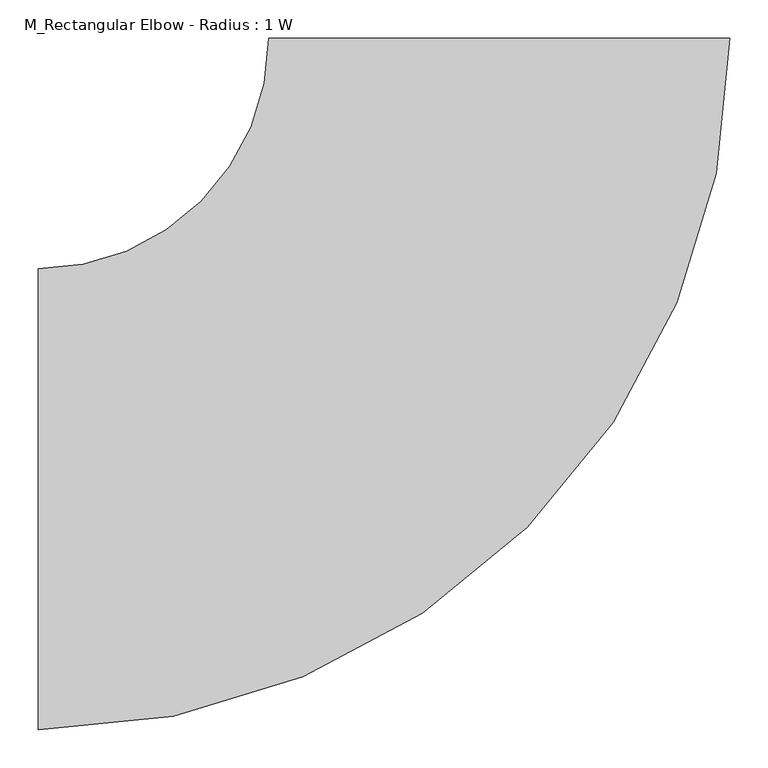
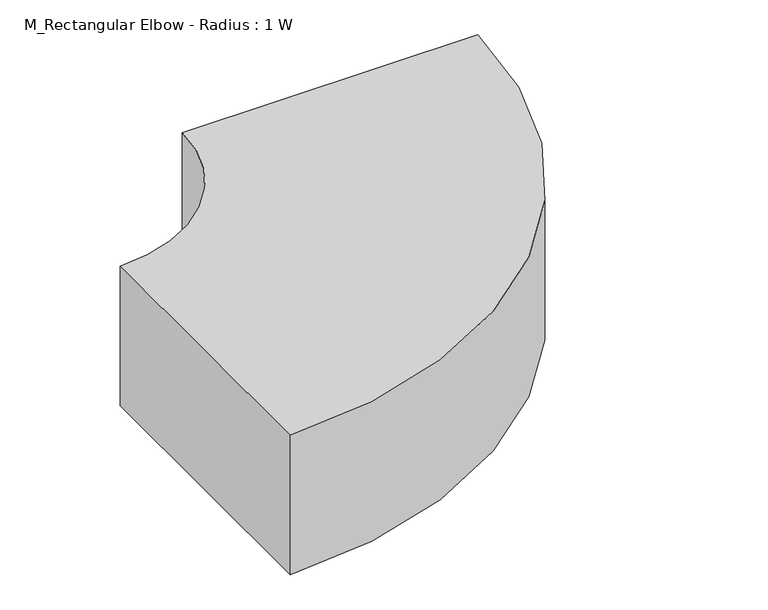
"""IFC4 building model written with IfcOpenShell, lengths in millimetres: duct fitting geometry, M_Rectangular Elbow - Radius : 1 W."""

from ifc_helpers import new_model, si_unit, point, frame, frame_2d, origin, place, context, project, spatial, polyline, circle_curve, trimmed, segment, composite_curve, outline, extrude, source, transform, mapped, element, save


def m_rectangular_elbow_radius_1_w_c6ed0251(model_context):
    return source(origin(), model_context, "Body", "SweptSolid", [
        extrude(outline(composite_curve([segment(trimmed(circle_curve(frame_2d((-600.0, 600.0)), 900.0), [point((300.0, 600.0))], [point((-600.0, -300.0))], False, "CARTESIAN"), True, "CONTINUOUS"), segment(polyline([(-600.0, -300.0), (-600.0, 300.0)]), True, "CONTINUOUS"), segment(trimmed(circle_curve(frame_2d((-600.0, 600.0)), 300.0), [point((-600.0, 300.0))], [point((-300.0, 600.0))], True, "CARTESIAN"), True, "CONTINUOUS"), segment(polyline([(-300.0, 600.0), (300.0, 600.0)]), True, "CONTINUOUS")], self_intersect=False)), frame((0.0, 0.0, -150.0), z_axis=(0.0, 0.0, 1.0), x_axis=(1.0, 0.0, 0.0)), (0.0, 0.0, 1.0), 300.0),
    ])


if __name__ == "__main__":
    model = new_model("IFC4")
    model_context = context("Model", 3, world=origin())
    ifc_project = project(units=[si_unit("LENGTHUNIT", "METRE", prefix="MILLI")], contexts=[model_context])
    site = spatial("IfcSite", under=ifc_project)
    building = spatial("IfcBuilding", under=site)
    placement = place(None, origin())
    m_rectangular_elbow_radius_1_w_shape = m_rectangular_elbow_radius_1_w_c6ed0251(model_context)
    element("IfcDuctFitting", 1, ObjectType="M_Rectangular Elbow - Radius : 1 W", at=placement, inside=building, context=model_context, shape_type="MappedRepresentation", body=[
        mapped(m_rectangular_elbow_radius_1_w_shape, transform((0.0, 0.0, 0.0), x_axis=(1.0, 0.0, 0.0), y_axis=(0.0, 1.0, 0.0), z_axis=(0.0, 0.0, 1.0))),
    ])
    save(model, "model.ifc")
